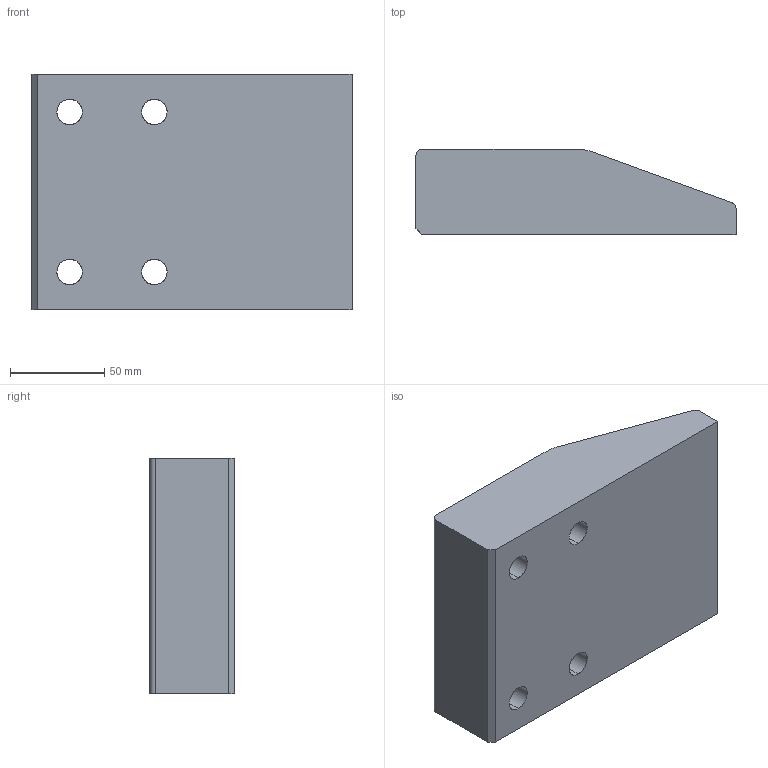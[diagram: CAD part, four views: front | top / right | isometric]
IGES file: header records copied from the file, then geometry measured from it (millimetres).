
Start section: START RECORD GO HERE.
Global section: file name: A935-12517045.igs; native system: DASSAULT SYSTEMES CATIA V5 R20 - www.3ds.com; preprocessor: CATIA Version 5 Release 20 ; author: Utente; organization: NB04-ASUS; date: 20200417.104034; units: millimetre
Bounding box: 170 x 45 x 125 mm (x, y, z)
Surface area: 71884.9 mm2 (no closed solid volume)
Topology: 0 solids, 0 shells, 39 faces, 182 edges, 182 vertices
Faces by surface type: revolution 27, extrusion 12
